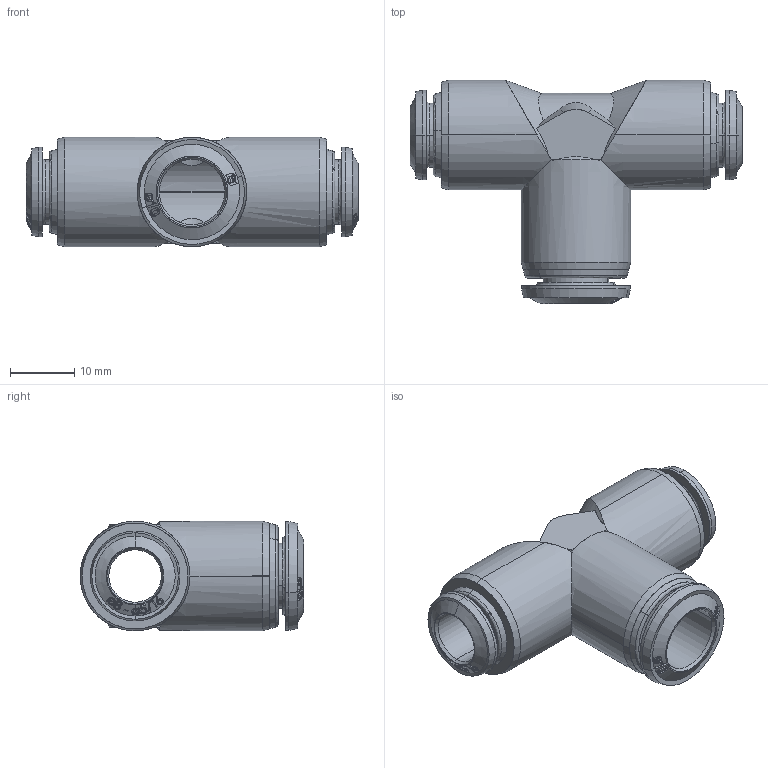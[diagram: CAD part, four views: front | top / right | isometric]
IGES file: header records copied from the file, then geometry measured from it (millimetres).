
Start section: SolidWorks IGES file using analytic representation for surfaces
Global section: file name: C:\Users\cad06\Desktop\Nuova cartella\5523000015A.IGS; native system: SolidWorks 2016; preprocessor: SolidWorks 2016; author: cad06; date: 160512.092848; units: millimetre
Bounding box: 51.8 x 34.85 x 17.1 mm (x, y, z)
Surface area: 5095.3 mm2 (no closed solid volume)
Topology: 0 solids, 0 shells, 380 faces, 4320 edges, 4320 vertices
Faces by surface type: bspline 270, revolution 110
